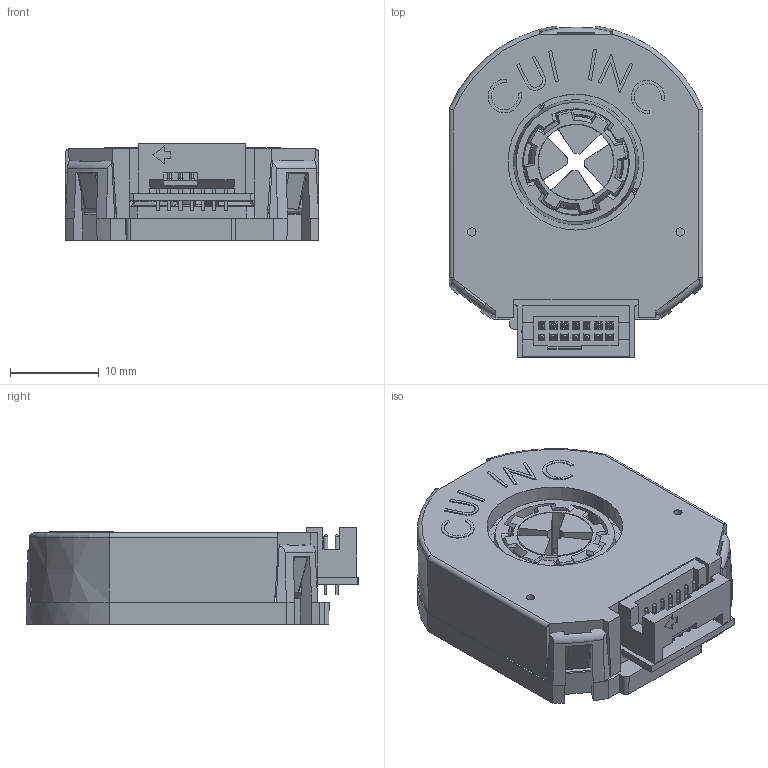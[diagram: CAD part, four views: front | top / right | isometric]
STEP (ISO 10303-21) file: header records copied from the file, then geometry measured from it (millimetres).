
FILE_DESCRIPTION (( 'STEP AP214' ), '1' );
FILE_NAME ('CUI_AMT113S-0048-2000-S.step', '2018-05-10T19:50:27', ( '' ), ( '' ), 'SwSTEP 2.0', 'SolidWorks 2018', '' );
FILE_SCHEMA (( 'AUTOMOTIVE_DESIGN' ));
Length unit declared in the file: millimetre
Products named in the file (12): AMT-Sleeve-REV-D_ 2 mm; Rotor_16f_5c_Rev_D; TFML-107-01-X-D-BASIC; Transmitter-board with connector_locking connector; Receiver-board; Transmitter-board_AMT203-303; AMT-Overmold_Hub-REV_A; CUI_AMT113S-0048-2000-S; AMT-103-Base-REV-K; AMT-203_303-Top-Cover_Rev_D_14CLD; AMT-Shaft-Adaptor-REVD_Fixed; Overmold_Rev_A
Assembly tree (11 placements, depth 3):
  CUI_AMT113S-0048-2000-S
    AMT-203_303-Top-Cover_Rev_D_14CLD
    AMT-103-Base-REV-K
    Overmold_Rev_A
      Rotor_16f_5c_Rev_D
      AMT-Overmold_Hub-REV_A
    AMT-Shaft-Adaptor-REVD_Fixed
    Transmitter-board with connector_locking connector
      Transmitter-board_AMT203-303
      TFML-107-01-X-D-BASIC
    Receiver-board
    AMT-Sleeve-REV-D_ 2 mm
Bounding box: 28.59 x 37.39 x 10.89 mm (x, y, z)
Volume: 5301.5 mm3; surface area: 10620.4 mm2
Topology: 9 solids, 9 shells, 5447 faces, 15975 edges, 10562 vertices
Faces by surface type: plane 4589, cylinder 602, cone 190, bspline 47, torus 19
Entity records: 235441 total; most frequent: CARTESIAN_POINT 36962, ORIENTED_EDGE 31942, DIRECTION 27912, EDGE_CURVE 15971, VECTOR 13738, LINE 13738, VERTEX_POINT 10562, AXIS2_PLACEMENT_3D 7087
